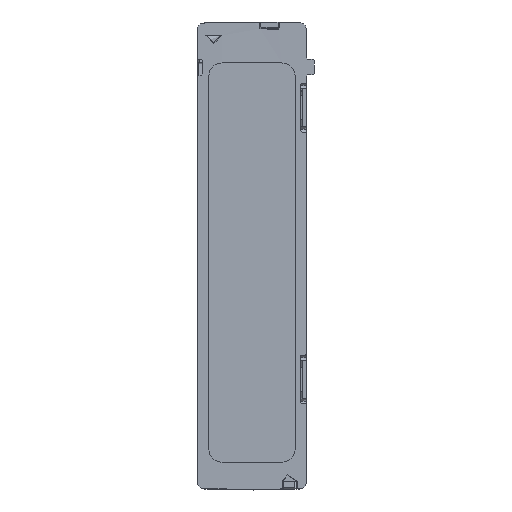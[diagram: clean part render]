
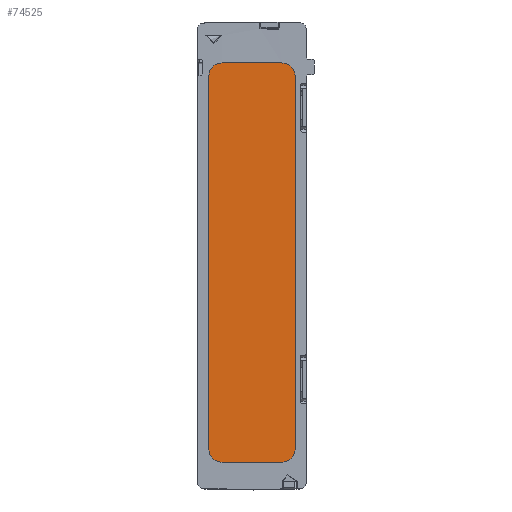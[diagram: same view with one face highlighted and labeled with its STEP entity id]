
A CAD part, top view. The second image highlights one B-rep face of the part: STEP entity #74525.
In plain terms, the highlighted planar face has unit normal (0, 0, 1).
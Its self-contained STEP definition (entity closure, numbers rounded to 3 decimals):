
#1406 = CARTESIAN_POINT ( 'NONE',  ( 45.924, -95.407, 276.7 ) ) ;
#4212 = CARTESIAN_POINT ( 'NONE',  ( 40.924, 41.593, 276.7 ) ) ;
#9384 = EDGE_LOOP ( 'NONE', ( #132455, #52961, #111860, #77222, #177429, #165339, #11921, #147664 ) ) ;
#11921 = ORIENTED_EDGE ( 'NONE', *, *, #38769, .T. ) ;
#11981 = EDGE_CURVE ( 'NONE', #175987, #79059, #23513, .T. ) ;
#12688 = VERTEX_POINT ( 'NONE', #33167 ) ;
#13710 = VECTOR ( 'NONE', #125291, 1000. ) ;
#18657 = VERTEX_POINT ( 'NONE', #45400 ) ;
#20793 = VERTEX_POINT ( 'NONE', #1406 ) ;
#22443 = DIRECTION ( 'NONE',  ( 1., 0., 0. ) ) ;
#23513 = CIRCLE ( 'NONE', #122858, 5. ) ;
#24183 = EDGE_CURVE ( 'NONE', #78517, #18657, #36812, .T. ) ;
#26993 = AXIS2_PLACEMENT_3D ( 'NONE', #169328, #84483, #40227 ) ;
#28789 = DIRECTION ( 'NONE',  ( 0., -1., 0. ) ) ;
#28851 = EDGE_CURVE ( 'NONE', #18657, #58288, #85319, .T. ) ;
#31938 = CARTESIAN_POINT ( 'NONE',  ( 18.924, -100.407, 276.7 ) ) ;
#31994 = CARTESIAN_POINT ( 'NONE',  ( 40.924, 46.593, 276.7 ) ) ;
#33167 = CARTESIAN_POINT ( 'NONE',  ( 40.924, -100.407, 276.7 ) ) ;
#36812 = CIRCLE ( 'NONE', #169214, 5. ) ;
#38769 = EDGE_CURVE ( 'NONE', #12688, #20793, #105893, .T. ) ;
#38942 = CIRCLE ( 'NONE', #42044, 5. ) ;
#40227 = DIRECTION ( 'NONE',  ( 1., 0., 0. ) ) ;
#40506 = LINE ( 'NONE', #141304, #13710 ) ;
#41204 = CARTESIAN_POINT ( 'NONE',  ( 45.924, 41.593, 276.7 ) ) ;
#42044 = AXIS2_PLACEMENT_3D ( 'NONE', #47845, #62026, #160965 ) ;
#45400 = CARTESIAN_POINT ( 'NONE',  ( 13.924, 41.593, 276.7 ) ) ;
#45722 = AXIS2_PLACEMENT_3D ( 'NONE', #185320, #102304, #172135 ) ;
#47845 = CARTESIAN_POINT ( 'NONE',  ( 18.924, -95.407, 276.7 ) ) ;
#52961 = ORIENTED_EDGE ( 'NONE', *, *, #65050, .T. ) ;
#53861 = DIRECTION ( 'NONE',  ( 1., 0., 0. ) ) ;
#54802 = EDGE_CURVE ( 'NONE', #20793, #175987, #175632, .T. ) ;
#58288 = VERTEX_POINT ( 'NONE', #151188 ) ;
#59794 = CARTESIAN_POINT ( 'NONE',  ( 18.924, 46.593, 276.7 ) ) ;
#61723 = DIRECTION ( 'NONE',  ( 0., 0., 1. ) ) ;
#62026 = DIRECTION ( 'NONE',  ( 0., 0., 1. ) ) ;
#62068 = CARTESIAN_POINT ( 'NONE',  ( 18.924, 41.593, 276.7 ) ) ;
#65050 = EDGE_CURVE ( 'NONE', #79059, #78517, #40506, .T. ) ;
#74193 = EDGE_CURVE ( 'NONE', #58288, #138096, #38942, .T. ) ;
#74525 = ADVANCED_FACE ( 'NONE', ( #111794 ), #156098, .T. ) ;
#77222 = ORIENTED_EDGE ( 'NONE', *, *, #28851, .T. ) ;
#78517 = VERTEX_POINT ( 'NONE', #59794 ) ;
#79059 = VERTEX_POINT ( 'NONE', #31994 ) ;
#82157 = LINE ( 'NONE', #185765, #103868 ) ;
#84483 = DIRECTION ( 'NONE',  ( 0., 0., 1. ) ) ;
#85319 = LINE ( 'NONE', #157878, #128232 ) ;
#101156 = DIRECTION ( 'NONE',  ( 0., 1., 0. ) ) ;
#102304 = DIRECTION ( 'NONE',  ( 0., 0., 1. ) ) ;
#103000 = CARTESIAN_POINT ( 'NONE',  ( 45.924, -24.407, 276.7 ) ) ;
#103868 = VECTOR ( 'NONE', #53861, 1000. ) ;
#105893 = CIRCLE ( 'NONE', #45722, 5. ) ;
#111794 = FACE_OUTER_BOUND ( 'NONE', #9384, .T. ) ;
#111860 = ORIENTED_EDGE ( 'NONE', *, *, #24183, .T. ) ;
#115534 = VECTOR ( 'NONE', #101156, 1000. ) ;
#121099 = EDGE_CURVE ( 'NONE', #138096, #12688, #82157, .T. ) ;
#122858 = AXIS2_PLACEMENT_3D ( 'NONE', #4212, #61723, #134243 ) ;
#125291 = DIRECTION ( 'NONE',  ( -1., 0., 0. ) ) ;
#128232 = VECTOR ( 'NONE', #28789, 1000. ) ;
#132455 = ORIENTED_EDGE ( 'NONE', *, *, #11981, .T. ) ;
#134243 = DIRECTION ( 'NONE',  ( 1., 0., 0. ) ) ;
#134584 = DIRECTION ( 'NONE',  ( 0., 0., 1. ) ) ;
#138096 = VERTEX_POINT ( 'NONE', #31938 ) ;
#141304 = CARTESIAN_POINT ( 'NONE',  ( 29.924, 46.593, 276.7 ) ) ;
#147664 = ORIENTED_EDGE ( 'NONE', *, *, #54802, .T. ) ;
#151188 = CARTESIAN_POINT ( 'NONE',  ( 13.924, -95.407, 276.7 ) ) ;
#156098 = PLANE ( 'NONE',  #26993 ) ;
#157878 = CARTESIAN_POINT ( 'NONE',  ( 13.924, -24.407, 276.7 ) ) ;
#160965 = DIRECTION ( 'NONE',  ( 1., 0., 0. ) ) ;
#165339 = ORIENTED_EDGE ( 'NONE', *, *, #121099, .T. ) ;
#169214 = AXIS2_PLACEMENT_3D ( 'NONE', #62068, #134584, #22443 ) ;
#169328 = CARTESIAN_POINT ( 'NONE',  ( 29.924, -24.407, 276.7 ) ) ;
#172135 = DIRECTION ( 'NONE',  ( 1., 0., 0. ) ) ;
#175632 = LINE ( 'NONE', #103000, #115534 ) ;
#175987 = VERTEX_POINT ( 'NONE', #41204 ) ;
#177429 = ORIENTED_EDGE ( 'NONE', *, *, #74193, .T. ) ;
#185320 = CARTESIAN_POINT ( 'NONE',  ( 40.924, -95.407, 276.7 ) ) ;
#185765 = CARTESIAN_POINT ( 'NONE',  ( 29.924, -100.407, 276.7 ) ) ;
